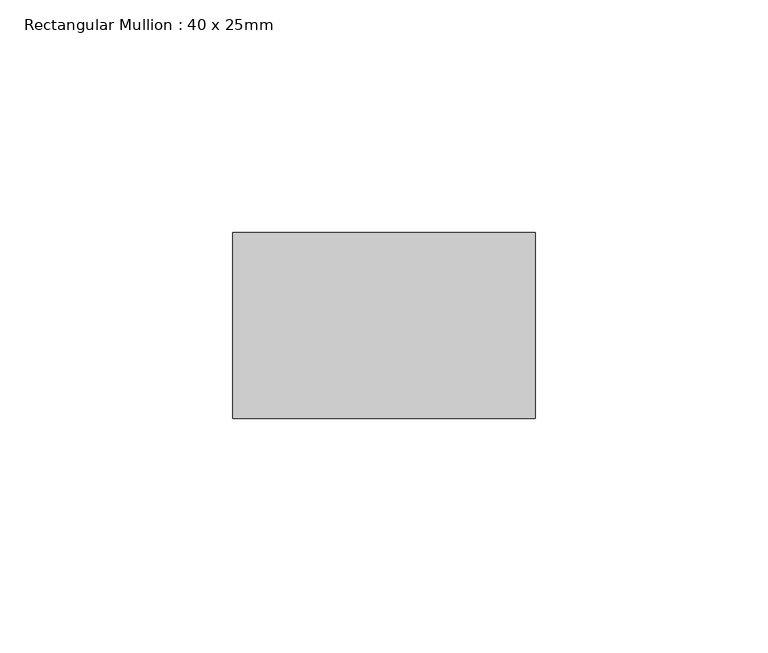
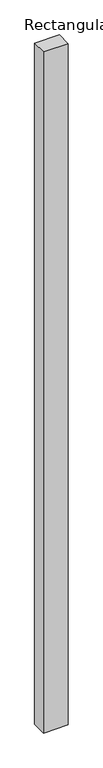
"""IFC4 building model written with IfcOpenShell, lengths in millimetres: member geometry, Rectangular Mullion : 40 x 25mm."""

import ifcopenshell
import ifcopenshell.guid

model = None  # the IFC model being written
_history = None  # IfcOwnerHistory: only IFC2X3 demands one
_inside = {}  # id of a spatial element -> (the spatial element, [elements in it])
_under = {}  # id of a project, library or spatial element -> (it, [spatial elements below it])
_declared = {}  # id of a project -> (the project, [libraries it declares])
_typed = {}  # id of a type object -> (the type object, [elements of that type])
_made_of = {}  # id of a material, layer set ... -> (it, [elements and type objects made of it])


def new_model(schema):
    """Start an empty IFC model of exactly this schema.

    Asked for "IFC4X3", IfcOpenShell would pick the latest addendum, in which some entities
    have other attributes; the version numbers below select the first issue.
    IFC2X3 requires an IfcOwnerHistory on every rooted entity: one is made here for all.
    """
    global model, _history
    if schema == "IFC4X3":
        model = ifcopenshell.file(schema_version=(4, 3, 0, 0))
    else:
        model = ifcopenshell.file(schema=schema)
    _inside.clear()
    _under.clear()
    _declared.clear()
    _typed.clear()
    _made_of.clear()
    _history = None
    if model.schema == "IFC2X3":
        org = make("IfcOrganization", Name="unknown")
        user = make(
            "IfcPersonAndOrganization",
            ThePerson=make("IfcPerson", FamilyName="unknown"),
            TheOrganization=org,
        )
        app = make(
            "IfcApplication",
            ApplicationDeveloper=org,
            Version="unknown",
            ApplicationFullName="unknown",
            ApplicationIdentifier="unknown",
        )
        _history = make(
            "IfcOwnerHistory",
            OwningUser=user,
            OwningApplication=app,
            ChangeAction="ADDED",
            CreationDate=0,
        )
    return model


def make(cls, **values):
    """One entity of the class cls with the attributes given. An attribute that is None is left unset."""
    return model.create_entity(
        cls, **{name: value for name, value in values.items() if value is not None}
    )


def rooted(cls, **values):
    """An entity with a GlobalId (a new one), such as an element, a storey or a relation."""
    return make(cls, GlobalId=ifcopenshell.guid.new(), OwnerHistory=_history, **values)


def si_unit(unit_type, name, prefix=None):
    """IfcSIUnit, for example si_unit("LENGTHUNIT", "METRE", prefix="MILLI")."""
    return make("IfcSIUnit", UnitType=unit_type, Prefix=prefix, Name=name)


def assignment(units):
    """IfcUnitAssignment: the units of a project."""
    return None if units is None else make("IfcUnitAssignment", Units=units)


def point(xyz):
    """IfcCartesianPoint."""
    return None if xyz is None else make("IfcCartesianPoint", Coordinates=xyz)


def direction(xyz):
    """IfcDirection."""
    return None if xyz is None else make("IfcDirection", DirectionRatios=xyz)


def frame(location, z_axis=None, x_axis=None):
    """IfcAxis2Placement3D, a coordinate frame: its origin and axes. An axis left out is left unset."""
    return make(
        "IfcAxis2Placement3D",
        Location=point(location),
        Axis=direction(z_axis),
        RefDirection=direction(x_axis),
    )


def origin():
    """The frame at (0, 0, 0) with its axes left unset."""
    return frame((0.0, 0.0, 0.0))


def place(relative_to, where):
    """IfcLocalPlacement: puts the frame where relative to a parent placement (None: the world)."""
    return make(
        "IfcLocalPlacement", PlacementRelTo=relative_to, RelativePlacement=where
    )


def context(
    kind, dimensions, precision=None, world=None, true_north=None, identifier=None
):
    """IfcGeometricRepresentationContext, for example the 3D "Model" context."""
    return make(
        "IfcGeometricRepresentationContext",
        ContextIdentifier=identifier,
        ContextType=kind,
        CoordinateSpaceDimension=dimensions,
        Precision=precision,
        WorldCoordinateSystem=world,
        TrueNorth=true_north,
    )


def project(units=None, contexts=None):
    """IfcProject with its units and contexts."""
    return rooted(
        "IfcProject",
        Name="project",
        RepresentationContexts=contexts,
        UnitsInContext=assignment(units),
    )


def spatial(cls, under=None, at=None, **own):
    """A site, building, storey or space (cls), placed at a placement, below another one or the project."""
    s = rooted(cls, ObjectPlacement=at, **own)
    if under is not None:
        _under.setdefault(under.id(), (under, []))[1].append(s)
    return s


def polyline(points):
    """IfcPolyline through the points."""
    return make("IfcPolyline", Points=[point(p) for p in points])


def outline(outer, holes=None, kind="AREA"):
    """IfcArbitraryClosedProfileDef: a profile drawn as a closed curve; with holes, ...WithVoids."""
    if holes is None:
        return make("IfcArbitraryClosedProfileDef", ProfileType=kind, OuterCurve=outer)
    return make(
        "IfcArbitraryProfileDefWithVoids",
        ProfileType=kind,
        OuterCurve=outer,
        InnerCurves=holes,
    )


def extrude(swept, where, along, depth):
    """IfcExtrudedAreaSolid: the profile swept, set in the frame where, extruded along a direction by depth."""
    return make(
        "IfcExtrudedAreaSolid",
        SweptArea=swept,
        Position=where,
        ExtrudedDirection=direction(along),
        Depth=depth,
    )


def shape(context_of_items, identifier, shape_type, items):
    """IfcShapeRepresentation: the items that make up one representation, for example the "Body"."""
    return make(
        "IfcShapeRepresentation",
        ContextOfItems=context_of_items,
        RepresentationIdentifier=identifier,
        RepresentationType=shape_type,
        Items=items,
    )


def source(mapping_origin, context_of_items, identifier, shape_type, items):
    """IfcRepresentationMap: a shape defined once, which mapped items show again and again."""
    return make(
        "IfcRepresentationMap",
        MappingOrigin=mapping_origin,
        MappedRepresentation=shape(context_of_items, identifier, shape_type, items),
    )


def transform(
    local_origin,
    x_axis=None,
    y_axis=None,
    z_axis=None,
    scale=None,
    scale2=None,
    scale3=None,
    uniform=True,
):
    """IfcCartesianTransformationOperator3D, or its non-uniform kind. x_axis, y_axis, z_axis: its Axis1, 2, 3."""
    if uniform:
        return make(
            "IfcCartesianTransformationOperator3D",
            Axis1=direction(x_axis),
            Axis2=direction(y_axis),
            LocalOrigin=point(local_origin),
            Scale=scale,
            Axis3=direction(z_axis),
        )
    return make(
        "IfcCartesianTransformationOperator3DnonUniform",
        Axis1=direction(x_axis),
        Axis2=direction(y_axis),
        LocalOrigin=point(local_origin),
        Scale=scale,
        Axis3=direction(z_axis),
        Scale2=scale2,
        Scale3=scale3,
    )


def mapped(mapping_source, mapping_target):
    """IfcMappedItem: shows the shape of a source again, moved by a transform."""
    return make(
        "IfcMappedItem", MappingSource=mapping_source, MappingTarget=mapping_target
    )


def made_of(thing, what):
    """Note that an element or type object is made of a material, layer set ...; save() writes the relation."""
    if what is not None:
        _made_of.setdefault(what.id(), (what, []))[1].append(thing)
    return thing


def element(
    cls,
    number,
    at=None,
    inside=None,
    cuts=None,
    type_object=None,
    material=None,
    context=None,
    identifier="Body",
    shape_type=None,
    held_by="IfcProductDefinitionShape",
    body=None,
    shapes=None,
    **own,
):
    """One element of the class cls, such as IfcWall. Its Tag is "e" and its number.

    at: its placement. inside: the storey or other place that contains it. cuts: it is an
    opening in that element (IfcRelVoidsElement). A single representation is given by context,
    identifier, shape_type and body (its items); several are given by shapes. held_by: the class
    of the entity that holds the representations. save() writes the other relations.
    """
    e = rooted(cls, Tag="e%d" % number, ObjectPlacement=at, **own)
    if body is not None:
        shapes = [shape(context, identifier, shape_type, body)]
    if shapes is not None:
        e.Representation = make(held_by, Representations=shapes)
    if inside is not None:
        _inside.setdefault(inside.id(), (inside, []))[1].append(e)
    if cuts is not None:
        rooted(
            "IfcRelVoidsElement", RelatingBuildingElement=cuts, RelatedOpeningElement=e
        )
    if type_object is not None:
        _typed.setdefault(type_object.id(), (type_object, []))[1].append(e)
    return made_of(e, material)


def aggregate(whole, parts):
    """IfcRelAggregates: a whole, such as a stair, and the parts it consists of."""
    return rooted("IfcRelAggregates", RelatingObject=whole, RelatedObjects=parts)


def save(model, path):
    """Write the relations noted so far, then the file.

    IfcRelAggregates (storeys below a building ...), IfcRelContainedInSpatialStructure (elements
    in a storey), IfcRelDefinesByType, IfcRelAssociatesMaterial and IfcRelDeclares: one each for
    every whole, place, type object, material and project.
    """
    for whole, parts in _under.values():
        aggregate(whole, parts)
    for where, things in _inside.values():
        rooted(
            "IfcRelContainedInSpatialStructure",
            RelatedElements=things,
            RelatingStructure=where,
        )
    for kind, things in _typed.values():
        rooted("IfcRelDefinesByType", RelatedObjects=things, RelatingType=kind)
    for what, things in _made_of.values():
        rooted("IfcRelAssociatesMaterial", RelatedObjects=things, RelatingMaterial=what)
    for by, libraries in _declared.values():
        rooted("IfcRelDeclares", RelatingContext=by, RelatedDefinitions=libraries)
    model.write(path)


def rectangular_mullion_40_x_25mm_f74baf49(model_context):
    return source(origin(), model_context, "Body", "SweptSolid", [
        extrude(outline(polyline([(0.0, -20.0), (0.0, -60.0), (-65.0, -60.0), (-65.0, -20.0), (0.0, -20.0)])), frame((0.0, 0.0, -1893.2), z_axis=(0.0, 0.0, 1.0), x_axis=(1.0, 0.0, 0.0)), (0.0, 0.0, 1.0), 1893.2),
    ])


if __name__ == "__main__":
    model = new_model("IFC4")
    model_context = context("Model", 3, world=origin())
    ifc_project = project(units=[si_unit("LENGTHUNIT", "METRE", prefix="MILLI")], contexts=[model_context])
    site = spatial("IfcSite", under=ifc_project)
    building = spatial("IfcBuilding", under=site)
    placement = place(None, origin())
    rectangular_mullion_40_x_25mm_shape = rectangular_mullion_40_x_25mm_f74baf49(model_context)
    element("IfcMember", 1, ObjectType="Rectangular Mullion : 40 x 25mm", at=placement, inside=building, context=model_context, shape_type="MappedRepresentation", body=[
        mapped(rectangular_mullion_40_x_25mm_shape, transform((0.0, 0.0, 0.0), x_axis=(1.0, 0.0, 0.0), y_axis=(0.0, 1.0, 0.0), z_axis=(0.0, 0.0, 1.0))),
    ])
    save(model, "model.ifc")
